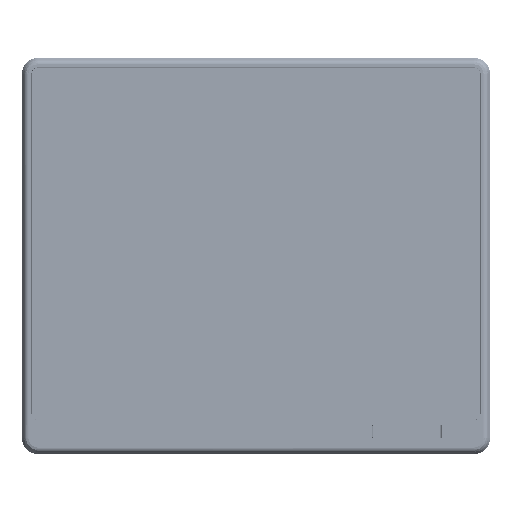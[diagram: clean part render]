
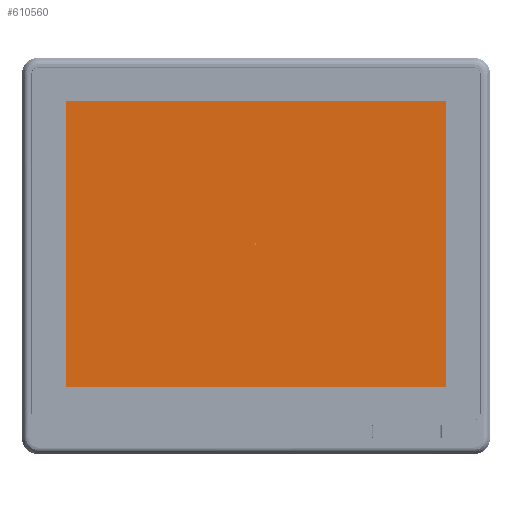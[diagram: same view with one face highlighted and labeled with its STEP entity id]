
A CAD part, top view. The second image highlights one B-rep face of the part: STEP entity #610560.
In plain terms, the highlighted planar face has unit normal (0, 0, 1).
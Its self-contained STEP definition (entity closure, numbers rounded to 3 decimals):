
#1088 = AXIS2_PLACEMENT_3D ( 'NONE', #709437, #381328, #52739 ) ;
#2476 = ORIENTED_EDGE ( 'NONE', *, *, #113499, .T. ) ;
#21044 = LINE ( 'NONE', #568761, #295660 ) ;
#24576 = CARTESIAN_POINT ( 'NONE',  ( -135.402, 107.352, 322.523 ) ) ;
#26989 = EDGE_LOOP ( 'NONE', ( #2476, #602279, #327462, #237417 ) ) ;
#32142 = CIRCLE ( 'NONE', #1088, 0.5 ) ;
#52739 = DIRECTION ( 'NONE',  ( 0., -1., 0. ) ) ;
#77714 = CARTESIAN_POINT ( 'NONE',  ( -135.402, -79.148, 322.523 ) ) ;
#91786 = LINE ( 'NONE', #77714, #383449 ) ;
#103642 = CARTESIAN_POINT ( 'NONE',  ( 112.598, -79.148, 322.523 ) ) ;
#113499 = EDGE_CURVE ( 'NONE', #263594, #411706, #218941, .T. ) ;
#122504 = VERTEX_POINT ( 'NONE', #457809 ) ;
#128119 = DIRECTION ( 'NONE',  ( 0., -1., 0. ) ) ;
#131777 = FACE_BOUND ( 'NONE', #415777, .T. ) ;
#177429 = VECTOR ( 'NONE', #571621, 1000. ) ;
#197030 = EDGE_CURVE ( 'NONE', #411706, #283059, #91786, .T. ) ;
#218941 = LINE ( 'NONE', #293527, #638918 ) ;
#236567 = DIRECTION ( 'NONE',  ( 0., 0., 1. ) ) ;
#237417 = ORIENTED_EDGE ( 'NONE', *, *, #401780, .T. ) ;
#263594 = VERTEX_POINT ( 'NONE', #24576 ) ;
#267360 = EDGE_CURVE ( 'NONE', #671039, #671039, #32142, .T. ) ;
#283059 = VERTEX_POINT ( 'NONE', #103642 ) ;
#293527 = CARTESIAN_POINT ( 'NONE',  ( -135.402, 107.352, 322.523 ) ) ;
#295660 = VECTOR ( 'NONE', #458629, 1000. ) ;
#321232 = AXIS2_PLACEMENT_3D ( 'NONE', #564683, #236567, #619690 ) ;
#323153 = LINE ( 'NONE', #679505, #177429 ) ;
#327462 = ORIENTED_EDGE ( 'NONE', *, *, #421334, .T. ) ;
#344431 = PLANE ( 'NONE',  #321232 ) ;
#381328 = DIRECTION ( 'NONE',  ( 0., 0., 1. ) ) ;
#383449 = VECTOR ( 'NONE', #461163, 1000. ) ;
#401780 = EDGE_CURVE ( 'NONE', #122504, #263594, #323153, .T. ) ;
#411706 = VERTEX_POINT ( 'NONE', #658067 ) ;
#415777 = EDGE_LOOP ( 'NONE', ( #531257 ) ) ;
#421334 = EDGE_CURVE ( 'NONE', #283059, #122504, #21044, .T. ) ;
#457809 = CARTESIAN_POINT ( 'NONE',  ( 112.598, 107.352, 322.523 ) ) ;
#458629 = DIRECTION ( 'NONE',  ( 0., 1., 0. ) ) ;
#461163 = DIRECTION ( 'NONE',  ( 1., 0., 0. ) ) ;
#531257 = ORIENTED_EDGE ( 'NONE', *, *, #267360, .F. ) ;
#564683 = CARTESIAN_POINT ( 'NONE',  ( -153.902, -96.898, 322.523 ) ) ;
#568761 = CARTESIAN_POINT ( 'NONE',  ( 112.598, 107.352, 322.523 ) ) ;
#568929 = FACE_OUTER_BOUND ( 'NONE', #26989, .T. ) ;
#571621 = DIRECTION ( 'NONE',  ( -1., 0., 0. ) ) ;
#584201 = CARTESIAN_POINT ( 'NONE',  ( -11.402, 13.602, 322.523 ) ) ;
#602279 = ORIENTED_EDGE ( 'NONE', *, *, #197030, .T. ) ;
#610560 = ADVANCED_FACE ( 'NONE', ( #568929, #131777 ), #344431, .T. ) ;
#619690 = DIRECTION ( 'NONE',  ( 0., -1., 0. ) ) ;
#638918 = VECTOR ( 'NONE', #128119, 1000. ) ;
#658067 = CARTESIAN_POINT ( 'NONE',  ( -135.402, -79.148, 322.523 ) ) ;
#671039 = VERTEX_POINT ( 'NONE', #584201 ) ;
#679505 = CARTESIAN_POINT ( 'NONE',  ( -135.402, 107.352, 322.523 ) ) ;
#709437 = CARTESIAN_POINT ( 'NONE',  ( -11.402, 14.102, 322.523 ) ) ;
